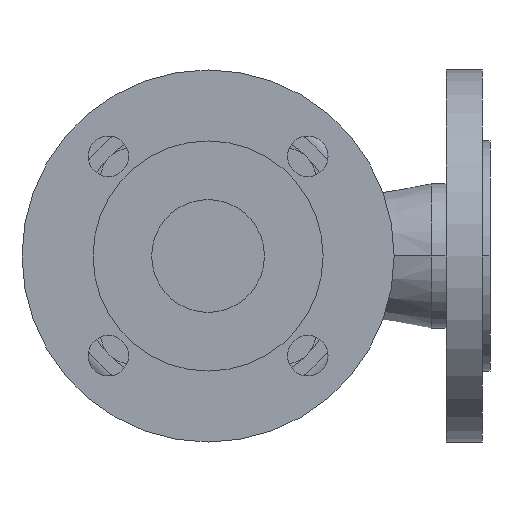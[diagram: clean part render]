
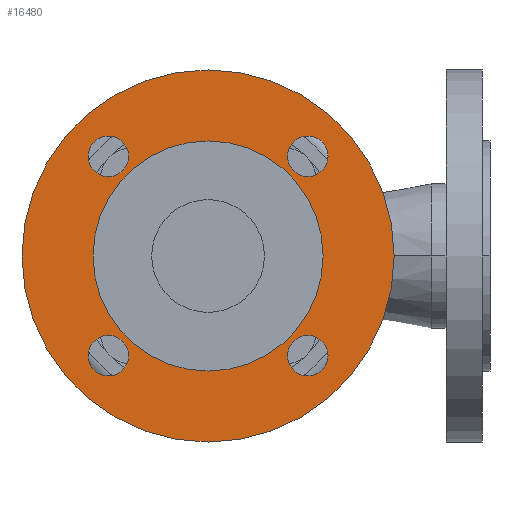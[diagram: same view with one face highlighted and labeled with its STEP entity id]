
A CAD part, front view. The second image highlights one B-rep face of the part: STEP entity #16480.
In plain terms, the highlighted planar face has unit normal (0, -1, 0).
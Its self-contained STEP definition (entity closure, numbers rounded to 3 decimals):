
#610=CARTESIAN_POINT('',(-51.,3.5,0.));
#620=VERTEX_POINT('',#610);
#780=CARTESIAN_POINT('',(51.,3.5,0.));
#790=VERTEX_POINT('',#780);
#820=CARTESIAN_POINT('',(0.,3.5,0.));
#830=DIRECTION('',(0.,-1.,0.));
#840=DIRECTION('',(-1.,0.,0.));
#850=AXIS2_PLACEMENT_3D('',#820,#830,#840);
#860=CIRCLE('',#850,51.);
#870=EDGE_CURVE('',#620,#790,#860,.T.);
#6340=CARTESIAN_POINT('',(82.5,3.5,0.));
#6350=VERTEX_POINT('',#6340);
#6380=CARTESIAN_POINT('',(0.,3.5,0.));
#6390=DIRECTION('',(0.,1.,0.));
#6400=DIRECTION('',(1.,0.,0.));
#6410=AXIS2_PLACEMENT_3D('',#6380,#6390,#6400);
#6420=CIRCLE('',#6410,82.5);
#6430=CARTESIAN_POINT('',(-82.5,3.5,0.));
#6440=VERTEX_POINT('',#6430);
#6450=EDGE_CURVE('',#6440,#6350,#6420,.T.);
#6830=CARTESIAN_POINT('',(53.194,3.5,-44.194));
#6840=VERTEX_POINT('',#6830);
#6870=CARTESIAN_POINT('',(44.194,3.5,-44.194));
#6880=DIRECTION('',(0.,1.,0.));
#6890=DIRECTION('',(1.,0.,0.));
#6900=AXIS2_PLACEMENT_3D('',#6870,#6880,#6890);
#6910=CIRCLE('',#6900,9.);
#6920=CARTESIAN_POINT('',(35.194,3.5,-44.194));
#6930=VERTEX_POINT('',#6920);
#6940=EDGE_CURVE('',#6840,#6930,#6910,.T.);
#7320=CARTESIAN_POINT('',(53.194,3.5,44.194));
#7330=VERTEX_POINT('',#7320);
#7360=CARTESIAN_POINT('',(44.194,3.5,44.194));
#7370=DIRECTION('',(0.,1.,0.));
#7380=DIRECTION('',(1.,0.,0.));
#7390=AXIS2_PLACEMENT_3D('',#7360,#7370,#7380);
#7400=CIRCLE('',#7390,9.);
#7410=CARTESIAN_POINT('',(35.194,3.5,44.194));
#7420=VERTEX_POINT('',#7410);
#7430=EDGE_CURVE('',#7330,#7420,#7400,.T.);
#7810=CARTESIAN_POINT('',(-53.194,3.5,44.194));
#7820=VERTEX_POINT('',#7810);
#7980=CARTESIAN_POINT('',(-35.194,3.5,44.194));
#7990=VERTEX_POINT('',#7980);
#8020=CARTESIAN_POINT('',(-44.194,3.5,44.194));
#8030=DIRECTION('',(0.,1.,0.));
#8040=DIRECTION('',(1.,0.,0.));
#8050=AXIS2_PLACEMENT_3D('',#8020,#8030,#8040);
#8060=CIRCLE('',#8050,9.);
#8070=EDGE_CURVE('',#7990,#7820,#8060,.T.);
#8300=CARTESIAN_POINT('',(-53.194,3.5,-44.194));
#8310=VERTEX_POINT('',#8300);
#8470=CARTESIAN_POINT('',(-35.194,3.5,-44.194));
#8480=VERTEX_POINT('',#8470);
#8510=CARTESIAN_POINT('',(-44.194,3.5,-44.194));
#8520=DIRECTION('',(0.,1.,0.));
#8530=DIRECTION('',(1.,0.,0.));
#8540=AXIS2_PLACEMENT_3D('',#8510,#8520,#8530);
#8550=CIRCLE('',#8540,9.);
#8560=EDGE_CURVE('',#8480,#8310,#8550,.T.);
#16130=CARTESIAN_POINT('',(0.,3.5,0.));
#16140=DIRECTION('',(0.,1.,0.));
#16150=DIRECTION('',(0.,0.,1.));
#16160=AXIS2_PLACEMENT_3D('',#16130,#16140,#16150);
#16170=PLANE('',#16160);
#16180=EDGE_CURVE('',#8310,#8480,#8550,.T.);
#16190=ORIENTED_EDGE('',*,*,#16180,.T.);
#16200=ORIENTED_EDGE('',*,*,#8560,.T.);
#16210=EDGE_LOOP('',(#16200,#16190));
#16220=FACE_BOUND('',#16210,.T.);
#16230=EDGE_CURVE('',#7820,#7990,#8060,.T.);
#16240=ORIENTED_EDGE('',*,*,#16230,.T.);
#16250=ORIENTED_EDGE('',*,*,#8070,.T.);
#16260=EDGE_LOOP('',(#16250,#16240));
#16270=FACE_BOUND('',#16260,.T.);
#16280=EDGE_CURVE('',#7420,#7330,#7400,.T.);
#16290=ORIENTED_EDGE('',*,*,#16280,.T.);
#16300=ORIENTED_EDGE('',*,*,#7430,.T.);
#16310=EDGE_LOOP('',(#16300,#16290));
#16320=FACE_BOUND('',#16310,.T.);
#16330=ORIENTED_EDGE('',*,*,#6940,.T.);
#16340=EDGE_CURVE('',#6930,#6840,#6910,.T.);
#16350=ORIENTED_EDGE('',*,*,#16340,.T.);
#16360=EDGE_LOOP('',(#16350,#16330));
#16370=FACE_BOUND('',#16360,.T.);
#16380=EDGE_CURVE('',#6350,#6440,#6420,.T.);
#16390=ORIENTED_EDGE('',*,*,#16380,.F.);
#16400=ORIENTED_EDGE('',*,*,#6450,.F.);
#16410=EDGE_LOOP('',(#16400,#16390));
#16420=FACE_OUTER_BOUND('',#16410,.T.);
#16430=EDGE_CURVE('',#790,#620,#860,.T.);
#16440=ORIENTED_EDGE('',*,*,#16430,.F.);
#16450=ORIENTED_EDGE('',*,*,#870,.F.);
#16460=EDGE_LOOP('',(#16450,#16440));
#16470=FACE_BOUND('',#16460,.T.);
#16480=ADVANCED_FACE('',(#16220,#16270,#16320,#16370,#16420,#16470),
#16170,.F.);
